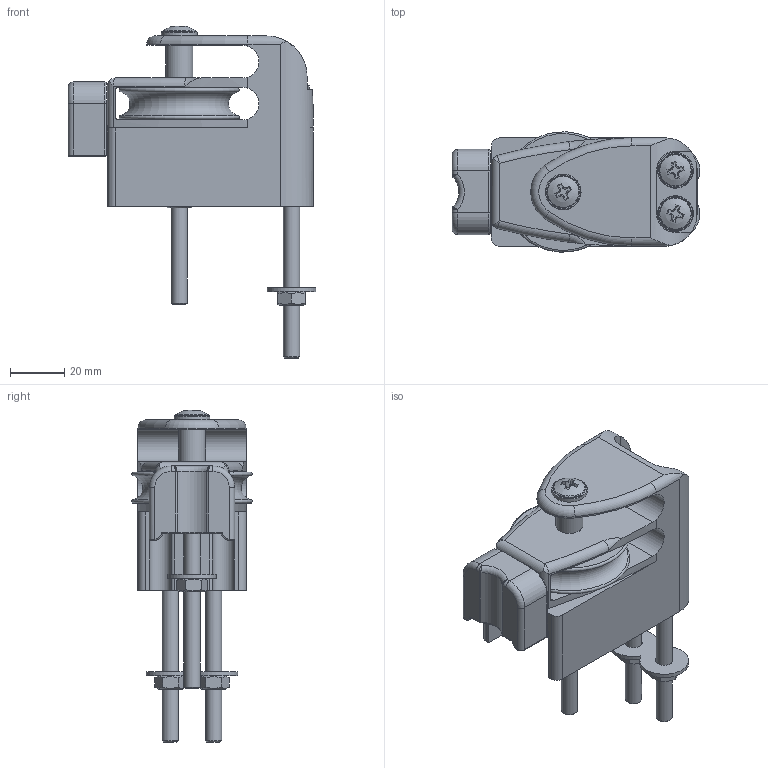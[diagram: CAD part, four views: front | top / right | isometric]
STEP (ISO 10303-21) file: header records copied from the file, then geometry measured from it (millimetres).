
FILE_DESCRIPTION(/* description */ (''),/* implementation_level */ '2;1');
FILE_NAME(/* name */ '\\SERVER2K12\Disegni CAD\Cad Library\3D - STP\Cars\4Race\4273.stp',/* time_stamp */ '2018-10-05T12:02:22+02:00',/* author */ ('francesca'),/* organization */ (''),/* preprocessor_version */ 'ST-DEVELOPER v16.5',/* originating_system */ 'Autodesk Inventor 2017',/* authorisation */ '');
FILE_SCHEMA (('AUTOMOTIVE_DESIGN { 1 0 10303 214 3 1 1 }'));
Length unit declared in the file: millimetre
Products named in the file (1): 18100506
Bounding box: 91.48 x 44.4 x 122.69 mm (x, y, z)
Volume: 114392.1 mm3; surface area: 44276.9 mm2
Topology: 1 solids, 2 shells, 322 faces, 791 edges, 523 vertices
Faces by surface type: plane 124, cylinder 86, sphere 53, cone 30, torus 23, bspline 6
Full cylindrical faces by diameter (mm): 6 x7, 6.2 x7, 6.4 x3, 6.5 x3, 10 x3, 12 x3, 13.2 x3, 18 x1
Entity records: 8992 total; most frequent: CARTESIAN_POINT 2020, DIRECTION 1498, ORIENTED_EDGE 1284, EDGE_CURVE 642, AXIS2_PLACEMENT_3D 627, EDGE_LOOP 467, VERTEX_POINT 459, FACE_OUTER_BOUND 322
